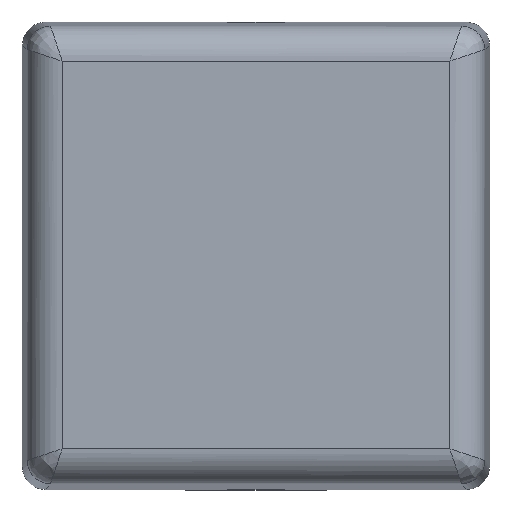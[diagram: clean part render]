
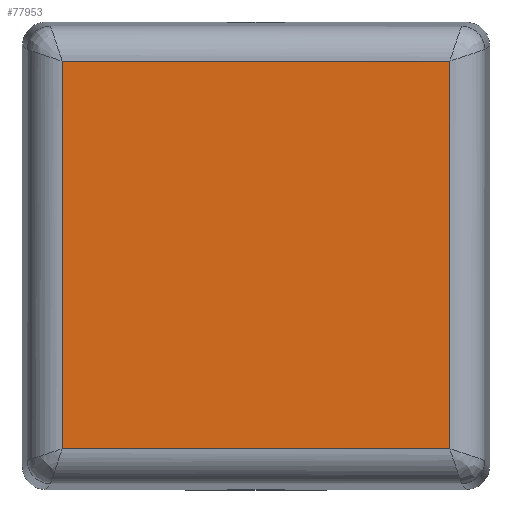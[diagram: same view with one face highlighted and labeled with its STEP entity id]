
A CAD part, top view. The second image highlights one B-rep face of the part: STEP entity #77953.
In plain terms, the highlighted planar face has unit normal (0, 0, 1).
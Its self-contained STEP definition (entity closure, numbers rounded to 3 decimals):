
#77895=CARTESIAN_POINT('',(16.587,-16.587,44.789));
#77896=VERTEX_POINT('',#77895);
#77905=CARTESIAN_POINT('',(16.587,16.587,44.789));
#77906=VERTEX_POINT('',#77905);
#77914=CARTESIAN_POINT('',(16.587,16.587,44.789));
#77915=DIRECTION('',(0.0,-1.0,0.0));
#77916=VECTOR('',#77915,33.175);
#77917=LINE('',#77914,#77916);
#77918=EDGE_CURVE('',#77906,#77896,#77917,.T.);
#77923=CARTESIAN_POINT('',(-16.587,20.,44.789));
#77924=DIRECTION('',(0.0,0.0,1.0));
#77925=DIRECTION('',(0.0,-1.0,0.0));
#77926=AXIS2_PLACEMENT_3D('',#77923,#77924,#77925);
#77927=PLANE('',#77926);
#77928=CARTESIAN_POINT('',(-16.587,16.587,44.789));
#77929=VERTEX_POINT('',#77928);
#77930=CARTESIAN_POINT('',(-16.587,16.587,44.789));
#77931=DIRECTION('',(1.0,0.0,0.0));
#77932=VECTOR('',#77931,33.175);
#77933=LINE('',#77930,#77932);
#77934=EDGE_CURVE('',#77929,#77906,#77933,.T.);
#77935=ORIENTED_EDGE('',*,*,#77934,.F.);
#77936=CARTESIAN_POINT('',(-16.587,-16.587,44.789));
#77937=VERTEX_POINT('',#77936);
#77938=CARTESIAN_POINT('',(-16.587,16.587,44.789));
#77939=DIRECTION('',(0.0,-1.0,0.0));
#77940=VECTOR('',#77939,33.175);
#77941=LINE('',#77938,#77940);
#77942=EDGE_CURVE('',#77929,#77937,#77941,.T.);
#77943=ORIENTED_EDGE('',*,*,#77942,.T.);
#77944=CARTESIAN_POINT('',(16.587,-16.587,44.789));
#77945=DIRECTION('',(-1.0,0.0,0.0));
#77946=VECTOR('',#77945,33.175);
#77947=LINE('',#77944,#77946);
#77948=EDGE_CURVE('',#77896,#77937,#77947,.T.);
#77949=ORIENTED_EDGE('',*,*,#77948,.F.);
#77950=ORIENTED_EDGE('',*,*,#77918,.F.);
#77951=EDGE_LOOP('',(#77935,#77943,#77949,#77950));
#77952=FACE_OUTER_BOUND('',#77951,.T.);
#77953=ADVANCED_FACE('',(#77952),#77927,.T.);
